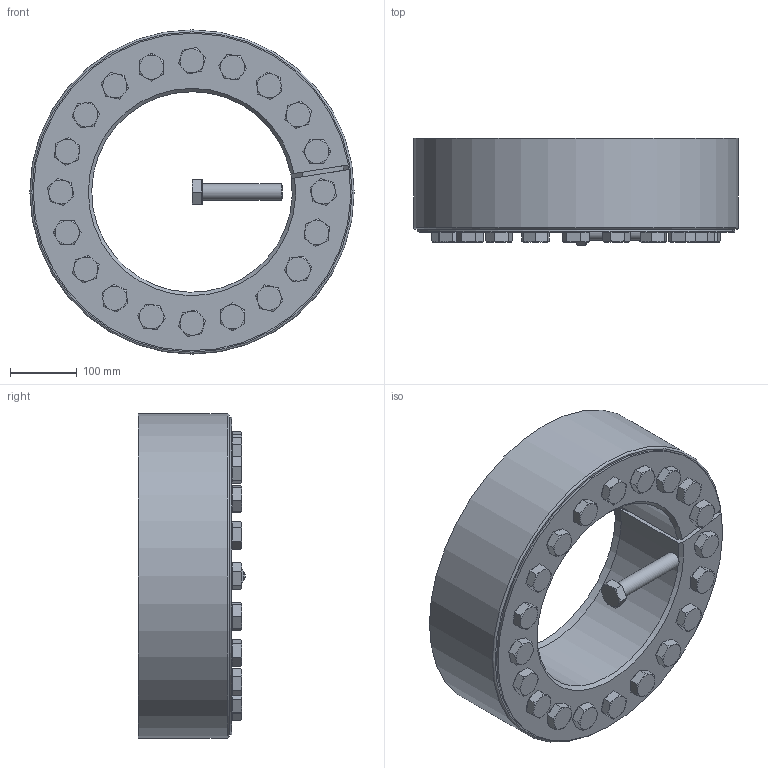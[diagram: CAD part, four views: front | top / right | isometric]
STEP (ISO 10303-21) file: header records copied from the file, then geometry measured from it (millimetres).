
FILE_DESCRIPTION( ( 'Unknown' ), '1' );
FILE_NAME( 'C:/Dokumente und Einstellungen/Sven/Desktop/homepage/cad - homepage/KBS19-1/KBS 19_1 - 300 x 485.stp', 'Unknown', ( 'Unknown' ), ( 'Unknown' ), 'XStep 1.0', 'Unknown', ' ' );
FILE_SCHEMA( ( 'automotive_design' ) );
Length unit declared in the file: millimetre
Products named in the file (3): Assem1; KBS 19_1 - 300 x 485; ISO 4017 - M24 x 120-N
Bounding box: 485 x 160.78 x 485 mm (x, y, z)
Volume: 30691934.8 mm3; surface area: 1821706 mm2
Topology: 23 solids, 23 shells, 595 faces, 1326 edges, 798 vertices
Faces by surface type: plane 333, cone 153, cylinder 86, torus 23
Full cylindrical faces by diameter (mm): 24 x61, 36 x21, 485 x2
Entity records: 2234 total; most frequent: CARTESIAN_POINT 377, DIRECTION 336, ORIENTED_EDGE 246, AXIS2_PLACEMENT_3D 149, EDGE_LOOP 129, EDGE_CURVE 123, VERTEX_POINT 94, FACE_OUTER_BOUND 85
